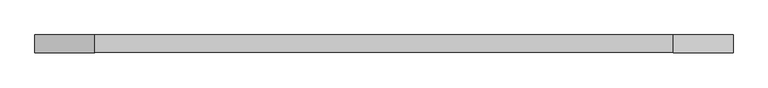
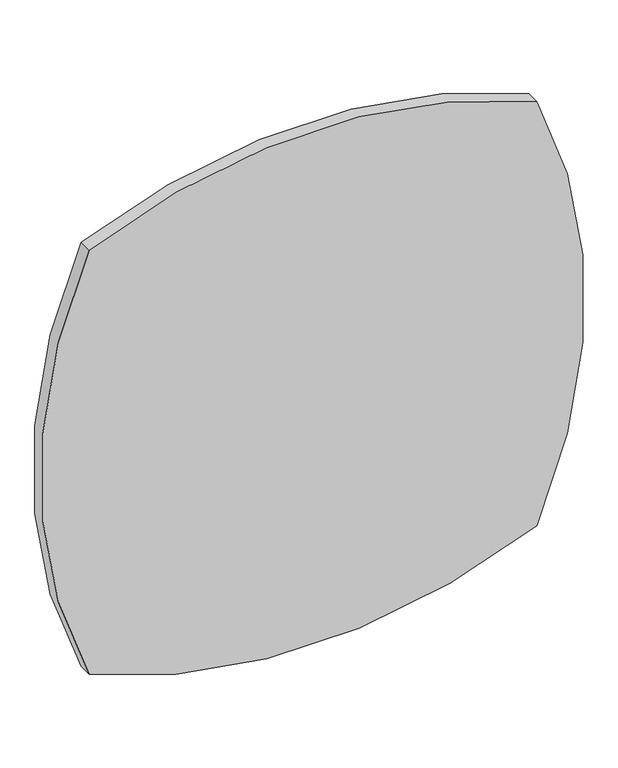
"""IFC4 building model written with IfcOpenShell, lengths in millimetres: proxy geometry, FOUNDATION^TABLE 4_60x60 RADIUS EDGES-WORKSURFACE."""

from ifc_helpers import new_model, si_unit, point, frame, frame_2d, origin, place, context, project, spatial, circle_curve, trimmed, segment, composite_curve, outline, extrude, source, transform, mapped, element, save


def generic_models_4f29faae(model_context):
    return source(origin(), model_context, "Body", "SweptSolid", [
        extrude(outline(composite_curve([segment(trimmed(circle_curve(frame_2d((0.0, 762.0)), 1524.0), [point((627.0312495, -627.0312495))], [point((-627.0312495, -627.0312495))], False, "CARTESIAN"), True, "CONTINUOUS"), segment(trimmed(circle_curve(frame_2d((762.0, 0.0)), 1524.0), [point((-627.0312495, -627.0312495))], [point((-627.0312495, 627.0312495))], False, "CARTESIAN"), True, "CONTINUOUS"), segment(trimmed(circle_curve(frame_2d((0.0, -762.0)), 1524.0), [point((-627.0312495, 627.0312495))], [point((627.0312495, 627.0312495))], False, "CARTESIAN"), True, "CONTINUOUS"), segment(trimmed(circle_curve(frame_2d((-762.0, 0.0)), 1524.0), [point((627.0312495, 627.0312495))], [point((627.0312495, -627.0312495))], False, "CARTESIAN"), True, "CONTINUOUS")], self_intersect=False)), frame((0.0, 0.0, 0.0), z_axis=(0.0, 1.0, 0.0), x_axis=(0.0, 0.0, 1.0)), (0.0, 0.0, 1.0), 38.1),
    ])


if __name__ == "__main__":
    model = new_model("IFC4")
    model_context = context("Model", 3, world=origin())
    ifc_project = project(units=[si_unit("LENGTHUNIT", "METRE", prefix="MILLI")], contexts=[model_context])
    site = spatial("IfcSite", under=ifc_project)
    building = spatial("IfcBuilding", under=site)
    placement = place(None, origin())
    generic_models_shape = generic_models_4f29faae(model_context)
    element("IfcBuildingElementProxy", 1, Name="FOUNDATION^TABLE 4_60x60 RADIUS EDGES-WORKSURFACE", ObjectType="FOUNDATION^TABLE 4_60x60 RADIUS EDGES-WORKSURFACE", at=placement, inside=building, context=model_context, shape_type="MappedRepresentation", body=[
        mapped(generic_models_shape, transform((0.0, 0.0, 0.0), x_axis=(1.0, 0.0, 0.0), y_axis=(0.0, 1.0, 0.0), z_axis=(0.0, 0.0, 1.0))),
    ])
    save(model, "model.ifc")
